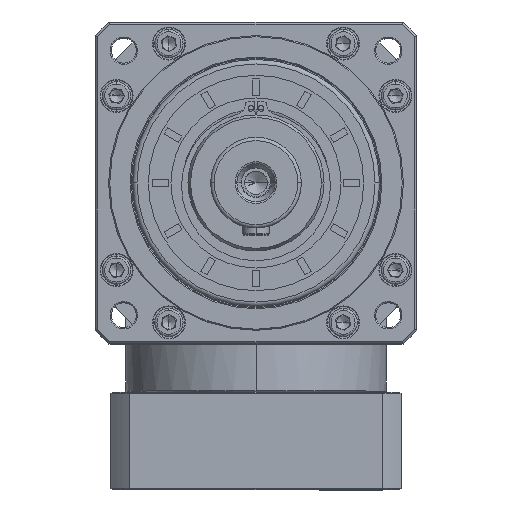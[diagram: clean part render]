
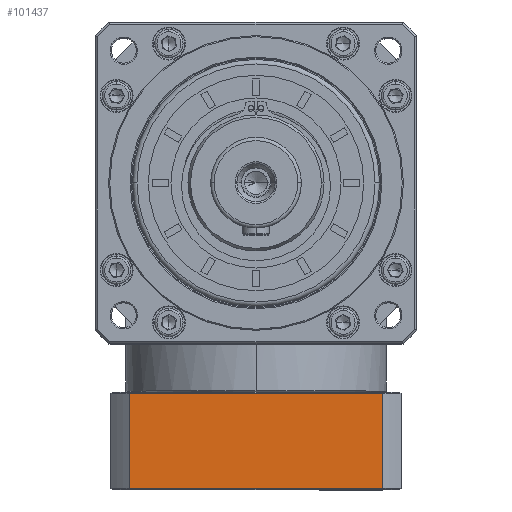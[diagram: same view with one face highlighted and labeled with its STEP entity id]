
A CAD part, top view. The second image highlights one B-rep face of the part: STEP entity #101437.
In plain terms, the highlighted planar face has unit normal (0, 0, 1).
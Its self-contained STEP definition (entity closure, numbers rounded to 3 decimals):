
#5252 = EDGE_CURVE ( 'NONE', #117418, #63667, #89260, .T. ) ;
#8649 = CARTESIAN_POINT ( 'NONE',  ( -237.114, -110.773, 129.692 ) ) ;
#10708 = CARTESIAN_POINT ( 'NONE',  ( -229.051, -110.773, 129.692 ) ) ;
#13722 = VECTOR ( 'NONE', #175432, 1000. ) ;
#14447 = PLANE ( 'NONE',  #114520 ) ;
#17613 = FACE_OUTER_BOUND ( 'NONE', #59921, .T. ) ;
#30213 = CARTESIAN_POINT ( 'NONE',  ( -117.176, 142.141, 129.692 ) ) ;
#36014 = DIRECTION ( 'NONE',  ( 1., 0., 0. ) ) ;
#36952 = ORIENTED_EDGE ( 'NONE', *, *, #57772, .F. ) ;
#47505 = VECTOR ( 'NONE', #36014, 1000. ) ;
#54076 = EDGE_CURVE ( 'NONE', #79432, #117418, #90580, .T. ) ;
#54542 = DIRECTION ( 'NONE',  ( -1., 0., 0. ) ) ;
#57772 = EDGE_CURVE ( 'NONE', #58115, #79432, #164714, .T. ) ;
#58115 = VERTEX_POINT ( 'NONE', #151053 ) ;
#59921 = EDGE_LOOP ( 'NONE', ( #36952, #159303, #114913, #69447 ) ) ;
#63667 = VERTEX_POINT ( 'NONE', #10708 ) ;
#69447 = ORIENTED_EDGE ( 'NONE', *, *, #54076, .F. ) ;
#70002 = CARTESIAN_POINT ( 'NONE',  ( -117.176, -152.773, 129.692 ) ) ;
#71775 = VECTOR ( 'NONE', #127503, 1000. ) ;
#79432 = VERTEX_POINT ( 'NONE', #70002 ) ;
#80792 = LINE ( 'NONE', #8649, #47505 ) ;
#84655 = DIRECTION ( 'NONE',  ( -1., 0., 0. ) ) ;
#89260 = LINE ( 'NONE', #134052, #13722 ) ;
#90580 = LINE ( 'NONE', #110969, #170307 ) ;
#95811 = EDGE_CURVE ( 'NONE', #63667, #58115, #80792, .T. ) ;
#97607 = CARTESIAN_POINT ( 'NONE',  ( -237.114, -153.273, 129.692 ) ) ;
#101437 = ADVANCED_FACE ( 'NONE', ( #17613 ), #14447, .F. ) ;
#110969 = CARTESIAN_POINT ( 'NONE',  ( -237.114, -152.773, 129.692 ) ) ;
#114520 = AXIS2_PLACEMENT_3D ( 'NONE', #97607, #140209, #84655 ) ;
#114913 = ORIENTED_EDGE ( 'NONE', *, *, #5252, .F. ) ;
#117418 = VERTEX_POINT ( 'NONE', #156344 ) ;
#127503 = DIRECTION ( 'NONE',  ( 0., -1., 0. ) ) ;
#134052 = CARTESIAN_POINT ( 'NONE',  ( -229.051, -153.273, 129.692 ) ) ;
#140209 = DIRECTION ( 'NONE',  ( 0., 0., -1. ) ) ;
#151053 = CARTESIAN_POINT ( 'NONE',  ( -117.176, -110.773, 129.692 ) ) ;
#156344 = CARTESIAN_POINT ( 'NONE',  ( -229.051, -152.773, 129.692 ) ) ;
#159303 = ORIENTED_EDGE ( 'NONE', *, *, #95811, .F. ) ;
#164714 = LINE ( 'NONE', #30213, #71775 ) ;
#170307 = VECTOR ( 'NONE', #54542, 1000. ) ;
#175432 = DIRECTION ( 'NONE',  ( 0., 1., 0. ) ) ;
